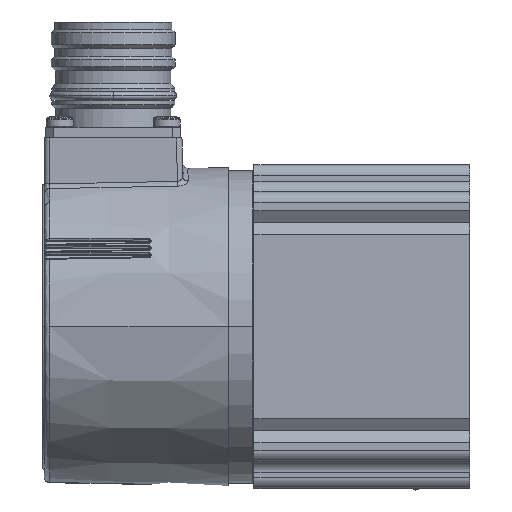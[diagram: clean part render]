
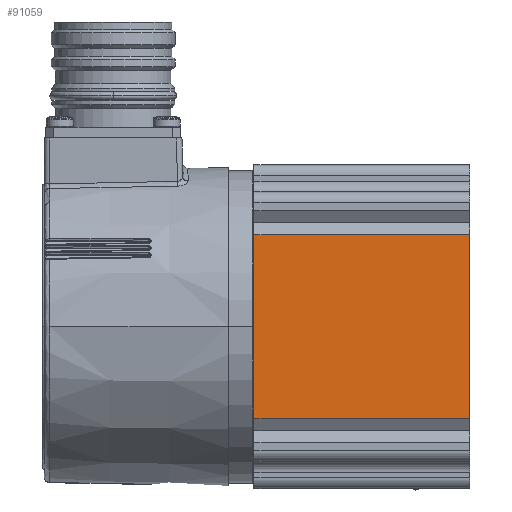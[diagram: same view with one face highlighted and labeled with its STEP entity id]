
A CAD part, front view. The second image highlights one B-rep face of the part: STEP entity #91059.
In plain terms, the highlighted planar face has unit normal (0, -1, 0).
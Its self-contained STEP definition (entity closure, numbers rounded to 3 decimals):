
#87275=DIRECTION('',(1.,0.,0.));
#87276=VECTOR('',#87275,34.172);
#87277=CARTESIAN_POINT('',(-17.086,-30.,0.));
#87278=LINE('',#87277,#87276);
#88580=DIRECTION('',(1.,0.,0.));
#88581=VECTOR('',#88580,34.172);
#88582=CARTESIAN_POINT('',(-17.086,-30.,40.));
#88583=LINE('',#88582,#88581);
#88942=DIRECTION('',(0.,0.,1.));
#88943=VECTOR('',#88942,40.);
#88944=CARTESIAN_POINT('',(-17.086,-30.,0.));
#88945=LINE('',#88944,#88943);
#88949=DIRECTION('',(0.,0.,1.));
#88950=VECTOR('',#88949,40.);
#88951=CARTESIAN_POINT('',(17.086,-30.,0.));
#88952=LINE('',#88951,#88950);
#89523=CARTESIAN_POINT('',(-17.086,-30.,0.));
#89524=VERTEX_POINT('',#89523);
#89525=CARTESIAN_POINT('',(17.086,-30.,0.));
#89526=VERTEX_POINT('',#89525);
#89655=CARTESIAN_POINT('',(-17.086,-30.,40.));
#89656=VERTEX_POINT('',#89655);
#89657=CARTESIAN_POINT('',(17.086,-30.,40.));
#89658=VERTEX_POINT('',#89657);
#91047=CARTESIAN_POINT('',(-17.086,-30.,0.));
#91048=DIRECTION('',(0.,-1.,0.));
#91049=DIRECTION('',(1.,0.,0.));
#91050=AXIS2_PLACEMENT_3D('',#91047,#91048,#91049);
#91051=PLANE('',#91050);
#91052=ORIENTED_EDGE('',*,*,#89935,.F.);
#91053=ORIENTED_EDGE('',*,*,#91042,.T.);
#91054=ORIENTED_EDGE('',*,*,#90678,.T.);
#91056=ORIENTED_EDGE('',*,*,#91055,.F.);
#91057=EDGE_LOOP('',(#91052,#91053,#91054,#91056));
#91058=FACE_OUTER_BOUND('',#91057,.F.);
#89935=EDGE_CURVE('',#89524,#89526,#87278,.T.);
#90678=EDGE_CURVE('',#89656,#89658,#88583,.T.);
#91042=EDGE_CURVE('',#89524,#89656,#88945,.T.);
#91055=EDGE_CURVE('',#89526,#89658,#88952,.T.);
#91059=ADVANCED_FACE('',(#91058),#91051,.T.);
